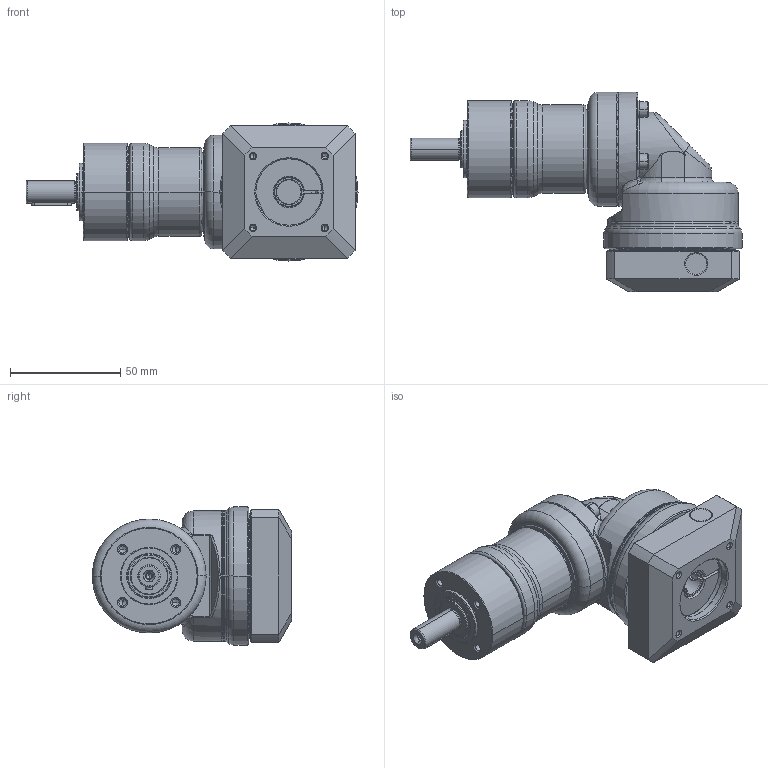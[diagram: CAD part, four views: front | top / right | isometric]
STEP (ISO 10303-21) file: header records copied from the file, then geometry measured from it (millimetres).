
FILE_DESCRIPTION((''),'2;1');
FILE_NAME('PG2R-040_2ST_11-P0411200101_ASM','2016-04-21T',('d01943'),(''),'PRO/ENGINEER BY PARAMETRIC TECHNOLOGY CORPORATION, 2008410','PRO/ENGINEER BY PARAMETRIC TECHNOLOGY CORPORATION, 2008410','');
FILE_SCHEMA(('CONFIG_CONTROL_DESIGN'));
Length unit declared in the file: millimetre
Products named in the file (12): P1325100001; P0251100001; P0350101103; P1349100001; P1017100001; P0713101001; P0503200005; P1350100101; P0411200101; P1702300001; 2111B104015; PG2R-040_2ST_11-P0411200101_ASM
Assembly tree (14 placements, depth 2):
  PG2R-040_2ST_11-P0411200101_ASM
    P1325100001
    P0251100001
    P0350101103
    P1349100001
    P1017100001
    P0713101001
    P0503200005
    P1350100101
    P0411200101
    P1702300001
    2111B104015  x4
Bounding box: 150.25 x 90.25 x 62.5 mm (x, y, z)
Volume: 190516.5 mm3; surface area: 77786.3 mm2
Topology: 14 solids, 15 shells, 742 faces, 1624 edges, 937 vertices
Faces by surface type: cylinder 224, cone 214, plane 163, torus 106, bspline 35
Entity records: 23347 total; most frequent: CARTESIAN_POINT 9013, DIRECTION 3193, ORIENTED_EDGE 2760, EDGE_CURVE 1380, AXIS2_PLACEMENT_3D 1352, VERTEX_POINT 817, EDGE_LOOP 727, CIRCLE 718
